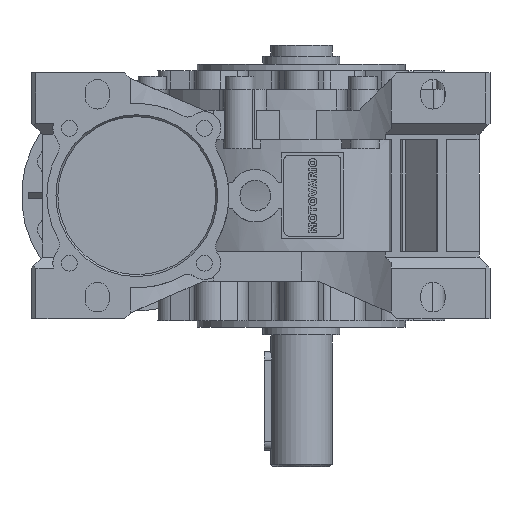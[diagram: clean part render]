
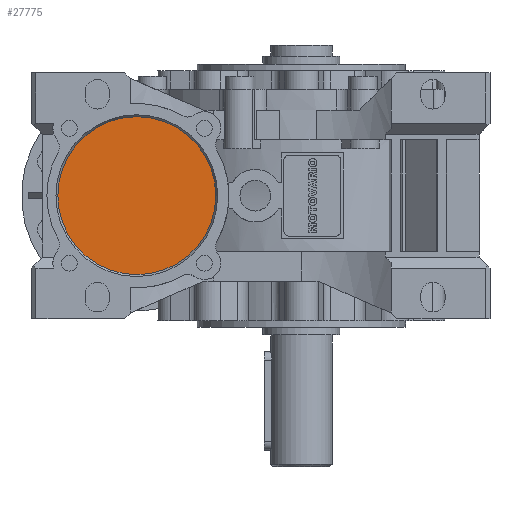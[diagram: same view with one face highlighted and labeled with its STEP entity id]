
A CAD part, left-side view. The second image highlights one B-rep face of the part: STEP entity #27775.
In plain terms, the highlighted planar face has unit normal (-1, 0, 0) as drawn and (0, 0, -1) by its records, which use the part's own axes.
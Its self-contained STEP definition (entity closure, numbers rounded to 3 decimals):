
#641=PLANE('',#30126);
#6778=CIRCLE('',#30125,36.);
#11378=ORIENTED_EDGE('',*,*,#18008,.F.);
#18008=EDGE_CURVE('',#21510,#21510,#6778,.T.);
#21510=VERTEX_POINT('',#45498);
#23452=EDGE_LOOP('',(#11378));
#25347=FACE_BOUND('',#23452,.T.);
#27775=ADVANCED_FACE('',(#25347),#641,.T.);
#30125=AXIS2_PLACEMENT_3D('',#45497,#35961,#35962);
#30126=AXIS2_PLACEMENT_3D('',#45499,#35963,#35964);
#35961=DIRECTION('',(0.,0.,1.));
#35962=DIRECTION('',(1.,0.,0.));
#35963=DIRECTION('',(0.,0.,-1.));
#35964=DIRECTION('',(-1.,0.,0.));
#45497=CARTESIAN_POINT('',(0.,75.,-87.5));
#45498=CARTESIAN_POINT('',(36.,75.,-87.5));
#45499=CARTESIAN_POINT('',(36.,75.,-87.5));
